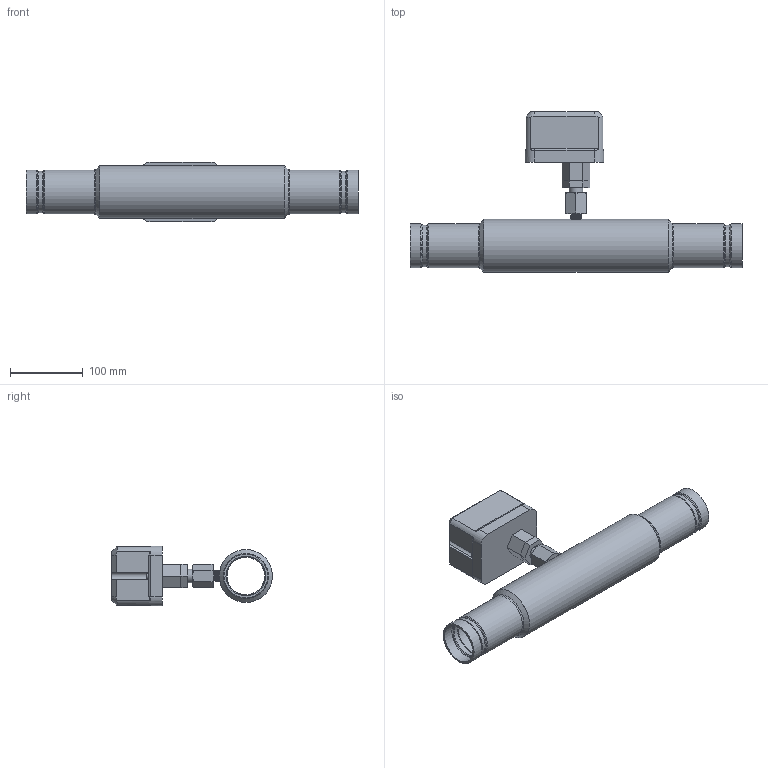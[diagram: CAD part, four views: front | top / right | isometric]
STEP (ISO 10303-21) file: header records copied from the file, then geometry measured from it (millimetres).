
FILE_DESCRIPTION(/* description */ (''),/* implementation_level */ '2;1');
FILE_NAME(/* name */ 'C:\Users\myoung\Box\ECS CAD Library\ECS Products\ILD-X Inline Detector\Export\ILD-2B10.stp',/* time_stamp */ '2020-05-05T15:46:38-05:00',/* author */ ('myoung'),/* organization */ (''),/* preprocessor_version */ 'ST-DEVELOPER v18',/* originating_system */ 'Autodesk Inventor 2020',/* authorisation */ '');
FILE_SCHEMA (('AUTOMOTIVE_DESIGN { 1 0 10303 214 3 1 1 }'));
Length unit declared in the file: inch
Products named in the file (1): ILD-2B10
Bounding box: 457.2 x 221.36 x 82.55 mm (x, y, z)
Volume: 979724.3 mm3; surface area: 328712 mm2
Topology: 3 solids, 3 shells, 174 faces, 467 edges, 309 vertices
Faces by surface type: plane 63, cone 44, cylinder 33, torus 22, bspline 12
Full cylindrical faces by diameter (mm): 1.524 x2, 7.112 x1, 7.62 x2, 12.359 x1, 19.05 x1, 51.587 x2, 54.788 x3, 56.058 x1, 57.125 x2, 60.325 x6, 66.929 x1, 73.025 x1
Entity records: 16234 total; most frequent: CARTESIAN_POINT 11700, ORIENTED_EDGE 934, DIRECTION 876, EDGE_CURVE 467, AXIS2_PLACEMENT_3D 352, VERTEX_POINT 309, EDGE_LOOP 190, CIRCLE 184
